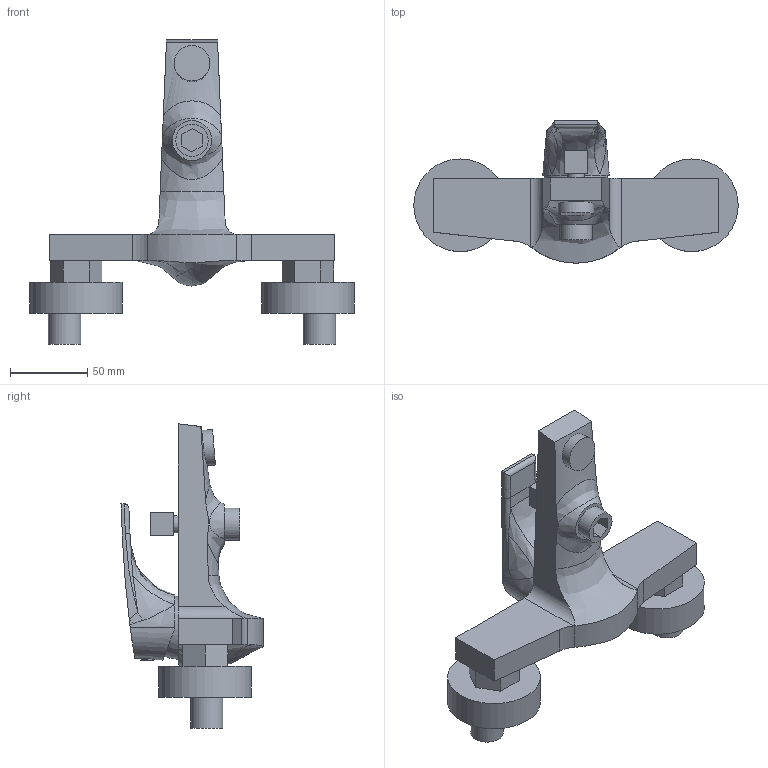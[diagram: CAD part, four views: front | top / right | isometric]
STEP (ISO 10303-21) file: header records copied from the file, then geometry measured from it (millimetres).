
FILE_DESCRIPTION(/* description */ ('SIGMA Bateria wannowa ścienna (bez akcesoriów)'),/* implementation_level */ '2;1');
FILE_NAME(/* name */ 'C:\Nextcloud\02_biblioteki_cad\Valvex\Projekt\PROJECTS\Eksport\ETAP 4\2456110\2456110.stp',/* time_stamp */ '2021-08-09T10:49:41+02:00',/* author */ ('Cadventure'),/* organization */ (''),/* preprocessor_version */ 'ST-DEVELOPER v18.1',/* originating_system */ 'Autodesk Inventor 2020',/* authorisation */ '');
FILE_SCHEMA (('AUTOMOTIVE_DESIGN { 1 0 10303 214 3 1 1 }'));
Length unit declared in the file: millimetre
Products named in the file (1): 2456110
Bounding box: 210 x 91.96 x 197 mm (x, y, z)
Volume: 496044.3 mm3; surface area: 73844.5 mm2
Topology: 2 solids, 2 shells, 95 faces, 243 edges, 162 vertices
Faces by surface type: plane 52, bspline 23, cylinder 18, cone 1, sphere 1
Full cylindrical faces by diameter (mm): 8 x1, 11 x1, 21 x3, 23 x1, 60 x2
Entity records: 4435 total; most frequent: CARTESIAN_POINT 2122, ORIENTED_EDGE 480, DIRECTION 385, EDGE_CURVE 240, VERTEX_POINT 162, AXIS2_PLACEMENT_3D 136, LINE 113, VECTOR 113
